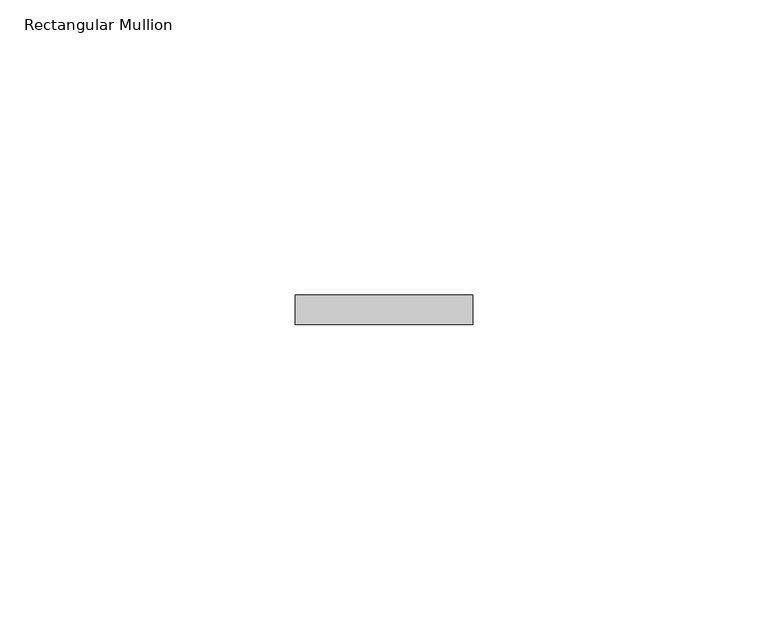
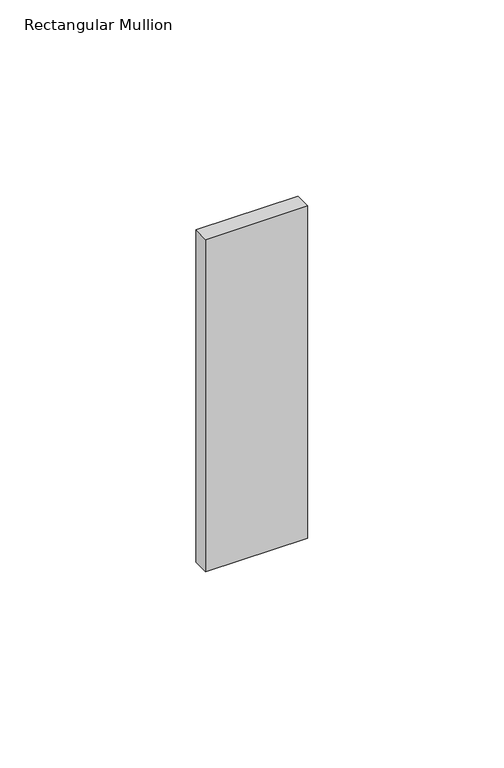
"""IFC4 building model written with IfcOpenShell, lengths in millimetres: member geometry, Rectangular Mullion : MT HRZ GRADIL 01."""

from ifc_helpers import new_model, si_unit, frame, origin, place, context, project, spatial, polyline, outline, extrude, source, transform, mapped, element, save


def rectangular_mullion_91b8a297(model_context):
    return source(origin(), model_context, "Body", "SweptSolid", [
        extrude(outline(polyline([(15.0, 2.5), (15.0, -2.5), (-15.0, -2.5), (-15.0, 2.5), (15.0, 2.5)])), frame((0.0, 0.0, -103.3426118), z_axis=(0.0, 0.0, 1.0), x_axis=(1.0, 0.0, 0.0)), (0.0, 0.0, 1.0), 103.3426118),
    ])


if __name__ == "__main__":
    model = new_model("IFC4")
    model_context = context("Model", 3, world=origin())
    ifc_project = project(units=[si_unit("LENGTHUNIT", "METRE", prefix="MILLI")], contexts=[model_context])
    site = spatial("IfcSite", under=ifc_project)
    building = spatial("IfcBuilding", under=site)
    placement = place(None, origin())
    rectangular_mullion_shape = rectangular_mullion_91b8a297(model_context)
    element("IfcMember", 1, ObjectType="Rectangular Mullion : MT HRZ GRADIL 01", at=placement, inside=building, context=model_context, shape_type="MappedRepresentation", body=[
        mapped(rectangular_mullion_shape, transform((0.0, 0.0, 0.0), x_axis=(1.0, 0.0, 0.0), y_axis=(0.0, 1.0, 0.0), z_axis=(0.0, 0.0, 1.0))),
    ])
    save(model, "model.ifc")
